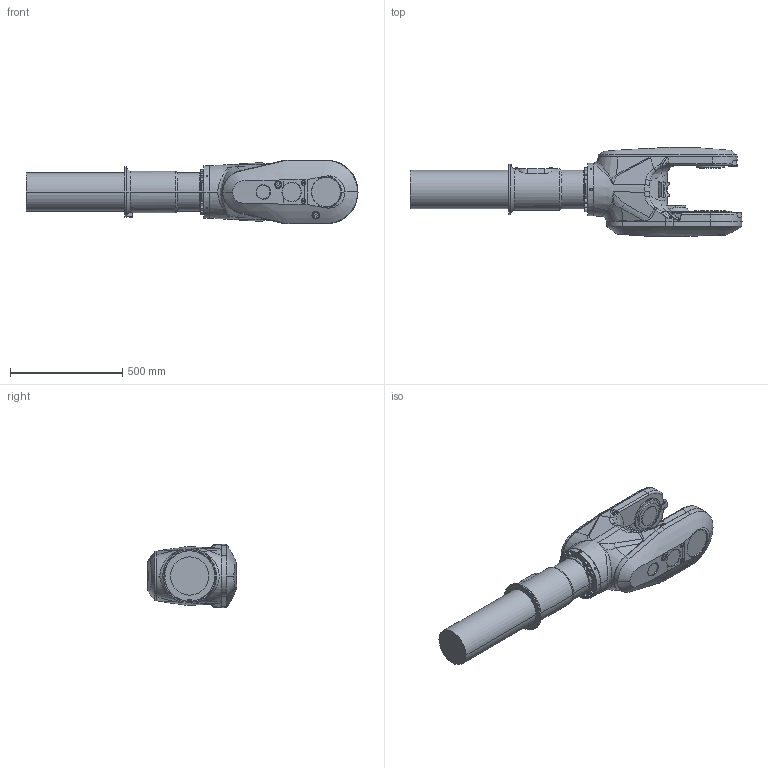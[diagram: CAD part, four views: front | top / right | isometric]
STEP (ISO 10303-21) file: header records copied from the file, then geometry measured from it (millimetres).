
FILE_DESCRIPTION (( 'STEP AP214' ), '1' );
FILE_NAME ('IRB6720-LID_215kg-265_OC_00_LINK04_CAD.step', '2026-05-26T08:19:59', ( '' ), ( '' ), 'SwSTEP 2.0', 'SolidWorks 2024', '' );
FILE_SCHEMA (( 'AUTOMOTIVE_DESIGN' ));
Length unit declared in the file: millimetre
Products named in the file (1): IRB6720-LID_215kg-265_OC_00_LINK04_CAD
Bounding box: 1477.5 x 396.47 x 284 mm (x, y, z)
Volume: 57051803.4 mm3; surface area: 1382358.3 mm2
Topology: 1 solids, 2 shells, 708 faces, 1757 edges, 1096 vertices
Faces by surface type: plane 308, cylinder 168, cone 117, bspline 90, torus 25
Entity records: 41079 total; most frequent: CARTESIAN_POINT 17684, ORIENTED_EDGE 3466, DIRECTION 2916, EDGE_CURVE 1733, VERTEX_POINT 1096, AXIS2_PLACEMENT_3D 1061, LINE 794, VECTOR 794
